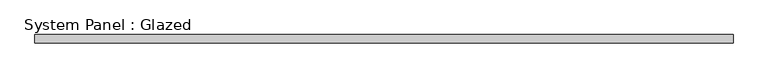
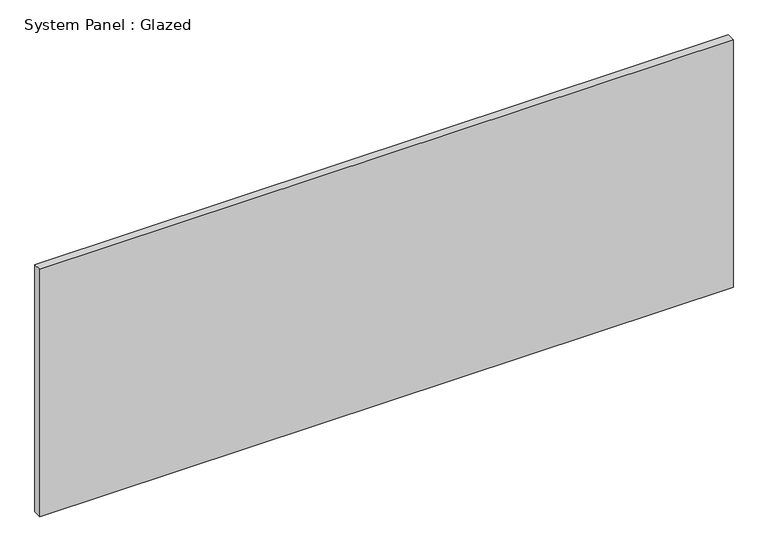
"""IFC4 building model written with IfcOpenShell, lengths in millimetres: plate geometry, System Panel : Glazed."""

from ifc_helpers import new_model, si_unit, origin, origin_with_axes, place, context, project, spatial, polyline, outline, extrude, source, transform, mapped, element, save


def system_panel_glazed_48cb03e7(model_context):
    return source(origin(), model_context, "Body", "SweptSolid", [
        extrude(outline(polyline([(1058.4447943, 19.05), (-1058.4447943, 19.05), (-1058.4447943, 44.45), (1058.4447943, 44.45), (1058.4447943, 19.05)])), origin_with_axes(), (0.0, 0.0, 1.0), 798.5967633),
    ])


if __name__ == "__main__":
    model = new_model("IFC4")
    model_context = context("Model", 3, world=origin())
    ifc_project = project(units=[si_unit("LENGTHUNIT", "METRE", prefix="MILLI")], contexts=[model_context])
    site = spatial("IfcSite", under=ifc_project)
    building = spatial("IfcBuilding", under=site)
    placement = place(None, origin())
    system_panel_glazed_shape = system_panel_glazed_48cb03e7(model_context)
    element("IfcPlate", 1, ObjectType="System Panel : Glazed", at=placement, inside=building, context=model_context, shape_type="MappedRepresentation", body=[
        mapped(system_panel_glazed_shape, transform((0.0, 0.0, 0.0), x_axis=(1.0, 0.0, 0.0), y_axis=(0.0, 1.0, 0.0), z_axis=(0.0, 0.0, 1.0))),
    ])
    save(model, "model.ifc")
